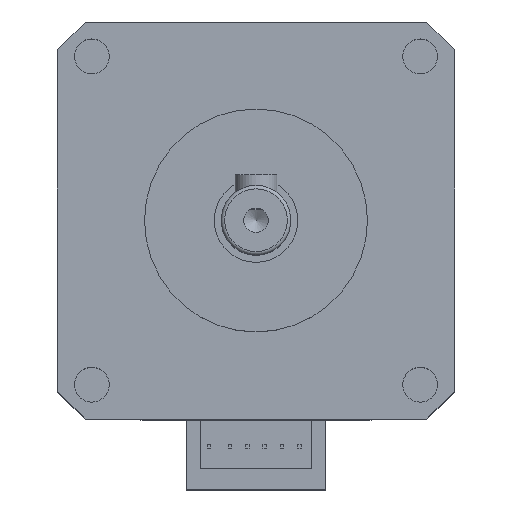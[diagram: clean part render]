
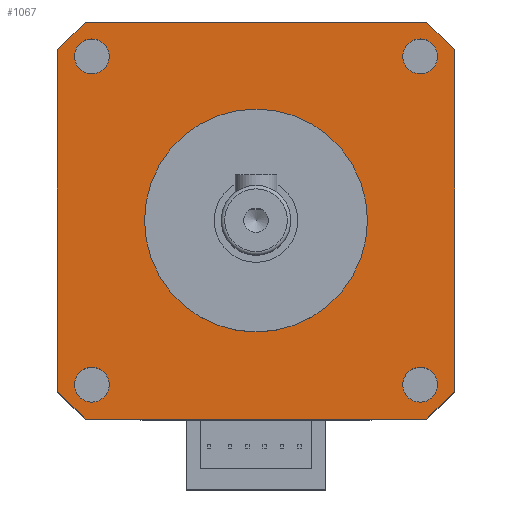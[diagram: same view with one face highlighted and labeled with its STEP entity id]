
A CAD part, top view. The second image highlights one B-rep face of the part: STEP entity #1067.
In plain terms, the highlighted planar face has unit normal (0, 0, 1).
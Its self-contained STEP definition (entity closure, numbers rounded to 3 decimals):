
#273=PLANE('',#3290);
#400=LINE('',#4503,#732);
#404=LINE('',#4511,#736);
#407=LINE('',#4517,#739);
#410=LINE('',#4523,#742);
#412=LINE('',#4527,#744);
#413=LINE('',#4528,#745);
#414=LINE('',#4529,#746);
#415=LINE('',#4530,#747);
#732=VECTOR('',#3609,1.);
#736=VECTOR('',#3615,1.);
#739=VECTOR('',#3620,1.);
#742=VECTOR('',#3625,1.);
#744=VECTOR('',#3629,1.);
#745=VECTOR('',#3630,1.);
#746=VECTOR('',#3631,1.);
#747=VECTOR('',#3632,1.);
#1067=ADVANCED_FACE('',(#1298,#1299,#1300,#1301,#1302,#1303),#273,.F.);
#1298=FACE_BOUND('',#1355,.T.);
#1299=FACE_BOUND('',#1356,.T.);
#1300=FACE_BOUND('',#1357,.T.);
#1301=FACE_BOUND('',#1358,.T.);
#1302=FACE_BOUND('',#1359,.T.);
#1303=FACE_BOUND('',#1360,.T.);
#1355=EDGE_LOOP('',(#1595));
#1356=EDGE_LOOP('',(#1596,#1597,#1598,#1599,#1600,#1601,#1602,#1603));
#1357=EDGE_LOOP('',(#1604));
#1358=EDGE_LOOP('',(#1605));
#1359=EDGE_LOOP('',(#1606));
#1360=EDGE_LOOP('',(#1607));
#1595=ORIENTED_EDGE('',*,*,#2737,.T.);
#1596=ORIENTED_EDGE('',*,*,#2742,.F.);
#1597=ORIENTED_EDGE('',*,*,#2750,.T.);
#1598=ORIENTED_EDGE('',*,*,#2738,.F.);
#1599=ORIENTED_EDGE('',*,*,#2751,.T.);
#1600=ORIENTED_EDGE('',*,*,#2748,.F.);
#1601=ORIENTED_EDGE('',*,*,#2752,.T.);
#1602=ORIENTED_EDGE('',*,*,#2745,.F.);
#1603=ORIENTED_EDGE('',*,*,#2753,.T.);
#1604=ORIENTED_EDGE('',*,*,#2754,.F.);
#1605=ORIENTED_EDGE('',*,*,#2755,.F.);
#1606=ORIENTED_EDGE('',*,*,#2756,.F.);
#1607=ORIENTED_EDGE('',*,*,#2757,.F.);
#2438=VERTEX_POINT('',#4500);
#2439=VERTEX_POINT('',#4504);
#2440=VERTEX_POINT('',#4505);
#2441=VERTEX_POINT('',#4510);
#2442=VERTEX_POINT('',#4512);
#2443=VERTEX_POINT('',#4516);
#2444=VERTEX_POINT('',#4518);
#2445=VERTEX_POINT('',#4522);
#2446=VERTEX_POINT('',#4524);
#2447=VERTEX_POINT('',#4532);
#2448=VERTEX_POINT('',#4534);
#2449=VERTEX_POINT('',#4536);
#2450=VERTEX_POINT('',#4538);
#2737=EDGE_CURVE('',#2438,#2438,#3163,.T.);
#2738=EDGE_CURVE('',#2439,#2440,#400,.T.);
#2742=EDGE_CURVE('',#2441,#2442,#404,.T.);
#2745=EDGE_CURVE('',#2443,#2444,#407,.T.);
#2748=EDGE_CURVE('',#2445,#2446,#410,.T.);
#2750=EDGE_CURVE('',#2441,#2440,#412,.T.);
#2751=EDGE_CURVE('',#2439,#2446,#413,.T.);
#2752=EDGE_CURVE('',#2445,#2444,#414,.T.);
#2753=EDGE_CURVE('',#2443,#2442,#415,.T.);
#2754=EDGE_CURVE('',#2447,#2447,#3164,.T.);
#2755=EDGE_CURVE('',#2448,#2448,#3165,.T.);
#2756=EDGE_CURVE('',#2449,#2449,#3166,.T.);
#2757=EDGE_CURVE('',#2450,#2450,#3167,.T.);
#3163=CIRCLE('',#3279,16.);
#3164=CIRCLE('',#3286,2.5);
#3165=CIRCLE('',#3287,2.5);
#3166=CIRCLE('',#3288,2.5);
#3167=CIRCLE('',#3289,2.5);
#3279=AXIS2_PLACEMENT_3D('',#4499,#3603,#3604);
#3286=AXIS2_PLACEMENT_3D('',#4531,#3633,#3634);
#3287=AXIS2_PLACEMENT_3D('',#4533,#3635,#3636);
#3288=AXIS2_PLACEMENT_3D('',#4535,#3637,#3638);
#3289=AXIS2_PLACEMENT_3D('',#4537,#3639,#3640);
#3290=AXIS2_PLACEMENT_3D('',#4539,#3641,#3642);
#3603=DIRECTION('',(0.,0.,-1.));
#3604=DIRECTION('',(1.,0.,0.));
#3609=DIRECTION('',(0.,1.,0.));
#3615=DIRECTION('',(1.,0.,0.));
#3620=DIRECTION('',(0.,-1.,0.));
#3625=DIRECTION('',(-1.,0.,0.));
#3629=DIRECTION('',(-0.707,-0.707,0.));
#3630=DIRECTION('',(0.707,-0.707,0.));
#3631=DIRECTION('',(0.707,0.707,0.));
#3632=DIRECTION('',(-0.707,0.707,0.));
#3633=DIRECTION('',(0.,0.,1.));
#3634=DIRECTION('',(1.,0.,0.));
#3635=DIRECTION('',(0.,0.,1.));
#3636=DIRECTION('',(1.,0.,0.));
#3637=DIRECTION('',(0.,0.,1.));
#3638=DIRECTION('',(1.,0.,0.));
#3639=DIRECTION('',(0.,0.,1.));
#3640=DIRECTION('',(1.,0.,0.));
#3641=DIRECTION('',(0.,0.,-1.));
#3642=DIRECTION('',(-1.,0.,0.));
#4499=CARTESIAN_POINT('',(0.,0.,0.));
#4500=CARTESIAN_POINT('',(16.,0.,0.));
#4503=CARTESIAN_POINT('',(-28.5,-28.5,0.));
#4504=CARTESIAN_POINT('',(-28.5,-24.5,0.));
#4505=CARTESIAN_POINT('',(-28.5,24.5,0.));
#4510=CARTESIAN_POINT('',(-24.5,28.5,0.));
#4511=CARTESIAN_POINT('',(-28.5,28.5,0.));
#4512=CARTESIAN_POINT('',(24.5,28.5,0.));
#4516=CARTESIAN_POINT('',(28.5,24.5,0.));
#4517=CARTESIAN_POINT('',(28.5,28.5,0.));
#4518=CARTESIAN_POINT('',(28.5,-24.5,0.));
#4522=CARTESIAN_POINT('',(24.5,-28.5,0.));
#4523=CARTESIAN_POINT('',(28.5,-28.5,0.));
#4524=CARTESIAN_POINT('',(-24.5,-28.5,0.));
#4527=CARTESIAN_POINT('',(-24.5,28.5,0.));
#4528=CARTESIAN_POINT('',(-28.5,-24.5,0.));
#4529=CARTESIAN_POINT('',(24.5,-28.5,0.));
#4530=CARTESIAN_POINT('',(28.5,24.5,0.));
#4531=CARTESIAN_POINT('',(-23.57,23.57,0.));
#4532=CARTESIAN_POINT('',(-21.07,23.57,0.));
#4533=CARTESIAN_POINT('',(23.57,23.57,0.));
#4534=CARTESIAN_POINT('',(26.07,23.57,0.));
#4535=CARTESIAN_POINT('',(23.57,-23.57,0.));
#4536=CARTESIAN_POINT('',(26.07,-23.57,0.));
#4537=CARTESIAN_POINT('',(-23.57,-23.57,0.));
#4538=CARTESIAN_POINT('',(-21.07,-23.57,0.));
#4539=CARTESIAN_POINT('',(-28.5,-28.5,0.));
